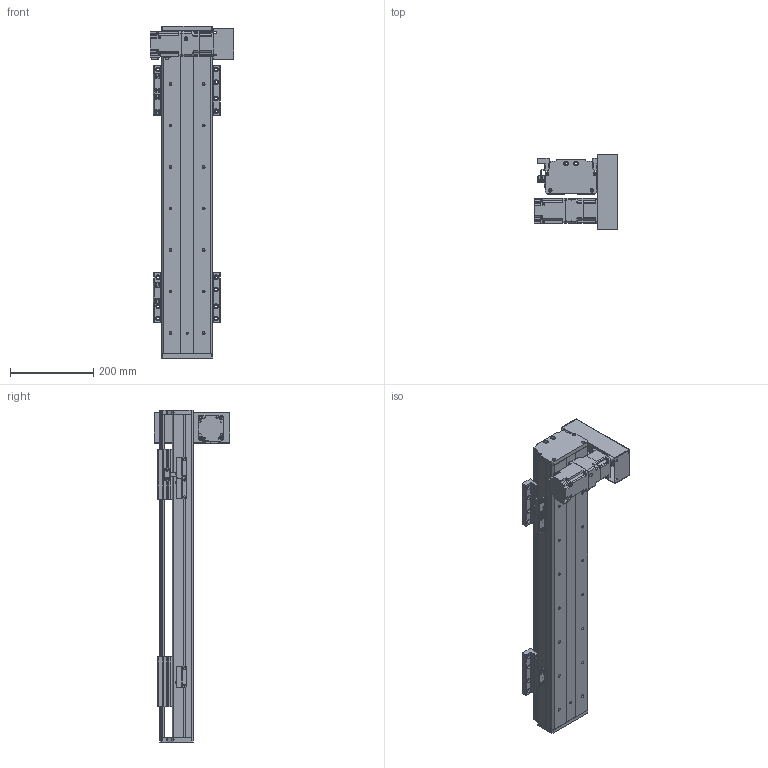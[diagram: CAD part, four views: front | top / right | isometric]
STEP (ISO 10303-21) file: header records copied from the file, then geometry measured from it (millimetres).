
FILE_DESCRIPTION(/* description */ (''),/* implementation_level */ '2;1');
FILE_NAME(/* name */ 'C:\Users\PC\Desktop\3D도면\STEP\새 폴더\DSB125-DR2G-W0500-L.stp',/* time_stamp */ '2018-06-21T14:55:40+09:00',/* author */ ('PC'),/* organization */ (''),/* preprocessor_version */ 'ST-DEVELOPER v16.5',/* originating_system */ 'Autodesk Inventor 2017',/* authorisation */ '');
FILE_SCHEMA (('AUTOMOTIVE_DESIGN { 1 0 10303 214 3 1 1 }'));
Length unit declared in the file: millimetre
Products named in the file (12): DSB125-DL2G-W0500-R_MIR; DSB125-BASE_MIR; DSB125-FRONT COVER_MIR; DSB125-REAR COVER_MIR; DSB125-UP COVER_MIR; hg-kr23__MIR; ab0601-p0401200402_MIR; 13-BELT COVER_MIR; DSR125-SENSOR DOG_MIR; pm-y65_step_MIR; SENSOR BRACKET(EE-SX674A)_MIR; DSB125-TABLE(MSB15S)_MIR
Assembly tree (16 placements, depth 2):
  DSB125-DL2G-W0500-R_MIR
    DSB125-BASE_MIR
    DSB125-FRONT COVER_MIR
    DSB125-REAR COVER_MIR
    DSB125-UP COVER_MIR
    hg-kr23__MIR
    ab0601-p0401200402_MIR
    13-BELT COVER_MIR
    DSR125-SENSOR DOG_MIR
    pm-y65_step_MIR  x3
    SENSOR BRACKET(EE-SX674A)_MIR  x3
    DSB125-TABLE(MSB15S)_MIR  x2
Bounding box: 202.1 x 182 x 800 mm (x, y, z)
Volume: 3416428.7 mm3; surface area: 986977.2 mm2
Topology: 17 solids, 17 shells, 1643 faces, 4460 edges, 2942 vertices
Faces by surface type: plane 903, cylinder 622, cone 106, sphere 8, torus 4
Full cylindrical faces by diameter (mm): 2.459 x20, 3.242 x16, 3.5 x6, 4 x1, 4.134 x16, 4.2 x4, 4.3 x1, 4.5 x50, 4.917 x20, 5 x22, 5.3 x1, 5.5 x4, 5.6 x8, 5.8 x4, 5.9 x8, 6 x4, 6.6 x22, 6.647 x16, 7.5 x32, 8.5 x8, 8.7 x1, 11 x22, 14 x1, 16 x2, 17 x1, 20 x1, 47 x1, 50 x3
Entity records: 35633 total; most frequent: CARTESIAN_POINT 6435, DIRECTION 6042, ORIENTED_EDGE 5442, EDGE_CURVE 2721, AXIS2_PLACEMENT_3D 2209, VERTEX_POINT 1930, EDGE_LOOP 1637, LINE 1624
